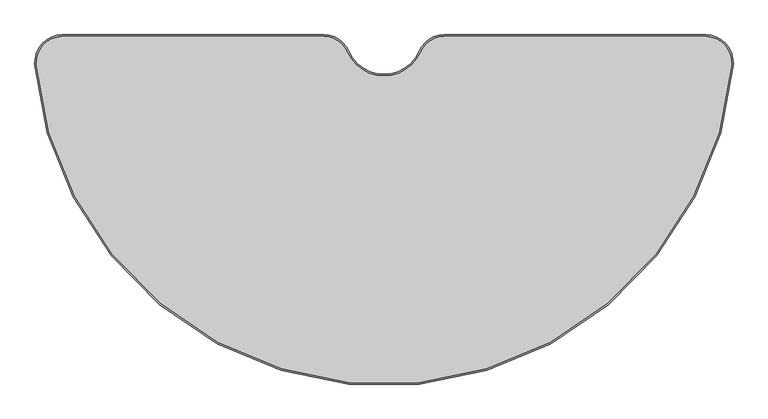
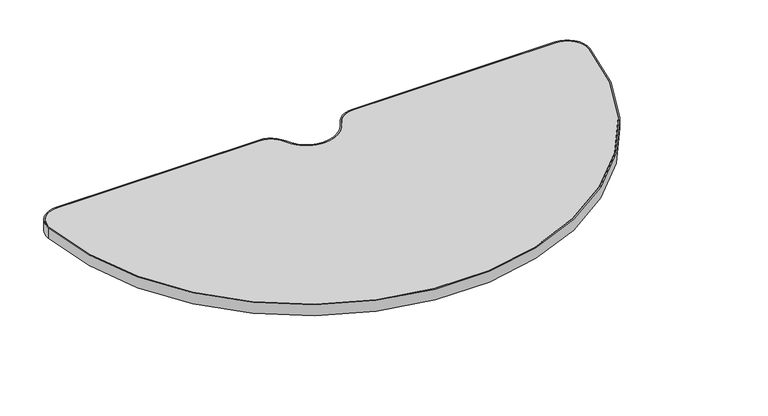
"""IFC4 building model written with IfcOpenShell, lengths in millimetres: furniture geometry, Steelcase - Groupwork - Table - Top - Half Round with Cutout : 27D x 54W - HPL."""

from ifc_helpers import new_model, si_unit, point, frame, frame_2d, origin, place, context, project, spatial, polyline, circle_curve, trimmed, segment, composite_curve, outline, extrude, source, transform, mapped, element, save


def furniture_d2ee572e(model_context):
    return source(origin(), model_context, "Body", "SweptSolid", [
        extrude(outline(composite_curve([segment(trimmed(circle_curve(frame_2d((0.001789, 0.8741706)), 684.8134013), [point((682.5147644, -55.2099894))], [point((-682.5111864, -55.2099894))], False, "CARTESIAN"), True, "CONTINUOUS"), segment(trimmed(circle_curve(frame_2d((-628.8440726, -50.8)), 53.848), [point((-682.5111864, -55.2099894))], [point((-628.8440726, 3.048))], False, "CARTESIAN"), True, "CONTINUOUS"), segment(polyline([(-628.8440726, 3.048), (-118.0279082, 3.048)]), True, "CONTINUOUS"), segment(trimmed(circle_curve(frame_2d((-118.0279082, -50.8)), 53.848), [point((-118.0279082, 3.048))], [point((-68.7002219, -29.2040174))], False, "CARTESIAN"), True, "CONTINUOUS"), segment(trimmed(circle_curve(frame_2d((0.001789, 0.8741706)), 74.9977579), [point((-68.7002219, -29.2040174))], [point((68.7037999, -29.2040174))], True, "CARTESIAN"), True, "CONTINUOUS"), segment(trimmed(circle_curve(frame_2d((118.0314862, -50.8)), 53.848), [point((68.7037999, -29.2040174))], [point((118.0314862, 3.048))], False, "CARTESIAN"), True, "CONTINUOUS"), segment(polyline([(118.0314862, 3.048), (628.8476506, 3.048)]), True, "CONTINUOUS"), segment(trimmed(circle_curve(frame_2d((628.8476506, -50.8)), 53.848), [point((628.8476506, 3.048))], [point((682.5147644, -55.2099894))], False, "CARTESIAN"), True, "CONTINUOUS")], self_intersect=False), holes=[composite_curve([segment(polyline([(-118.0279082, 0.0), (-628.8440726, 0.0)]), True, "CONTINUOUS"), segment(trimmed(circle_curve(frame_2d((-628.8440726, -50.8)), 50.8), [point((-628.8440726, 0.0))], [point((-679.4734252, -54.9603674))], True, "CARTESIAN"), True, "CONTINUOUS"), segment(trimmed(circle_curve(frame_2d((0.001789, 0.8741706)), 681.7654013), [point((-679.4734252, -54.9603674))], [point((679.4770032, -54.9603674))], True, "CARTESIAN"), True, "CONTINUOUS"), segment(trimmed(circle_curve(frame_2d((628.8476506, -50.8)), 50.8), [point((679.4770032, -54.9603674))], [point((628.8476506, 0.0))], True, "CARTESIAN"), True, "CONTINUOUS"), segment(polyline([(628.8476506, 0.0), (118.0314862, 0.0)]), True, "CONTINUOUS"), segment(trimmed(circle_curve(frame_2d((118.0314862, -50.8)), 50.8), [point((118.0314862, 0.0))], [point((71.4959331, -30.4264316))], True, "CARTESIAN"), True, "CONTINUOUS"), segment(trimmed(circle_curve(frame_2d((0.001789, 0.8741706)), 78.0457579), [point((71.4959331, -30.4264316))], [point((-71.492355, -30.4264316))], False, "CARTESIAN"), True, "CONTINUOUS"), segment(trimmed(circle_curve(frame_2d((-118.0279082, -50.8)), 50.8), [point((-71.492355, -30.4264316))], [point((-118.0279082, 0.0))], True, "CARTESIAN"), True, "CONTINUOUS")], self_intersect=False)]), frame((0.0, 0.0, 695.579), z_axis=(0.0, 0.0, 1.0), x_axis=(1.0, 0.0, 0.0)), (0.0, 0.0, 1.0), 28.702),
        extrude(outline(composite_curve([segment(trimmed(circle_curve(frame_2d((-118.0279082, -50.8)), 50.8), [point((-118.0279082, 0.0))], [point((-71.492355, -30.4264316))], False, "CARTESIAN"), True, "CONTINUOUS"), segment(trimmed(circle_curve(frame_2d((0.001789, 0.8741706)), 78.0457579), [point((-71.492355, -30.4264316))], [point((71.4959331, -30.4264316))], True, "CARTESIAN"), True, "CONTINUOUS"), segment(trimmed(circle_curve(frame_2d((118.0314862, -50.8)), 50.8), [point((71.4959331, -30.4264316))], [point((118.0314862, 0.0))], False, "CARTESIAN"), True, "CONTINUOUS"), segment(polyline([(118.0314862, 0.0), (628.8476506, 0.0)]), True, "CONTINUOUS"), segment(trimmed(circle_curve(frame_2d((628.8476506, -50.8)), 50.8), [point((628.8476506, 0.0))], [point((679.4770032, -54.9603674))], False, "CARTESIAN"), True, "CONTINUOUS"), segment(trimmed(circle_curve(frame_2d((0.001789, 0.8741706)), 681.7654013), [point((679.4770032, -54.9603674))], [point((-679.4734252, -54.9603674))], False, "CARTESIAN"), True, "CONTINUOUS"), segment(trimmed(circle_curve(frame_2d((-628.8440726, -50.8)), 50.8), [point((-679.4734252, -54.9603674))], [point((-628.8440726, 0.0))], False, "CARTESIAN"), True, "CONTINUOUS"), segment(polyline([(-628.8440726, 0.0), (-118.0279082, 0.0)]), True, "CONTINUOUS")], self_intersect=False)), frame((0.0, 0.0, 695.579), z_axis=(0.0, 0.0, 1.0), x_axis=(1.0, 0.0, 0.0)), (0.0, 0.0, 1.0), 28.702),
    ])


if __name__ == "__main__":
    model = new_model("IFC4")
    model_context = context("Model", 3, world=origin())
    ifc_project = project(units=[si_unit("LENGTHUNIT", "METRE", prefix="MILLI")], contexts=[model_context])
    site = spatial("IfcSite", under=ifc_project)
    building = spatial("IfcBuilding", under=site)
    placement = place(None, origin())
    furniture_shape = furniture_d2ee572e(model_context)
    element("IfcFurniture", 1, ObjectType="Steelcase - Groupwork - Table - Top - Half Round with Cutout : 27D x 54W - HPL", at=placement, inside=building, context=model_context, shape_type="MappedRepresentation", body=[
        mapped(furniture_shape, transform((0.0, 0.0, 0.0), x_axis=(1.0, 0.0, 0.0), y_axis=(0.0, 1.0, 0.0), z_axis=(0.0, 0.0, 1.0))),
    ])
    save(model, "model.ifc")
